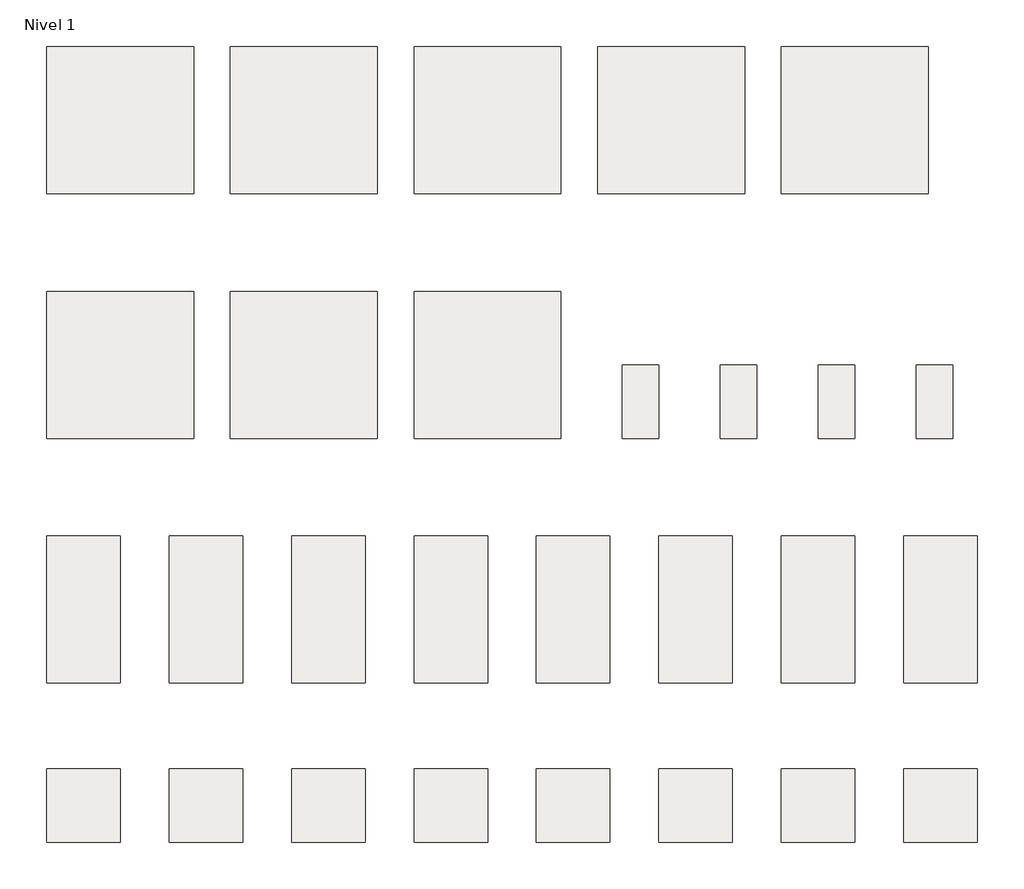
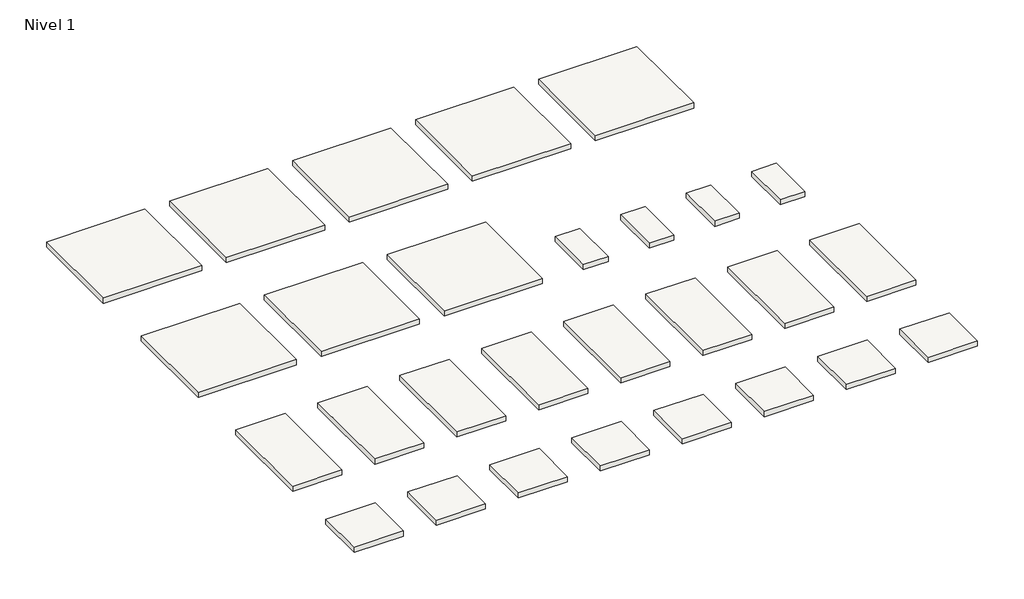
# One storey: 28 slabs.
"""IFC4 building model written with IfcOpenShell, lengths in millimetres."""

from ifc_helpers import new_model, si_unit, frame, origin, place, context, project, spatial, polyline, outline, extrude, element, save

model = new_model("IFC4")

# Units and contexts
model_context = context("Model", 3, world=origin())
ifc_project = project(units=[si_unit("LENGTHUNIT", "METRE", prefix="MILLI")], contexts=[model_context])

# Site, building, storey
site = spatial("IfcSite", under=ifc_project)
building = spatial("IfcBuilding", under=site)
storey = spatial("IfcBuildingStorey", under=building, Name="Nivel 1", Elevation=0.0)

# Slabs
placement = place(None, origin())
element("IfcSlab", 1, ObjectType="Moma Antracita 120X120", at=placement, inside=storey, context=model_context, shape_type="SweptSolid", body=[
    extrude(outline(polyline([(0.0, 1200.0), (1200.0, 1200.0), (1200.0, 0.0), (0.0, 0.0), (0.0, 1200.0)])), frame((0.0, 0.0, -65.0), z_axis=(0.0, 0.0, 1.0), x_axis=(1.0, 0.0, 0.0)), (0.0, 0.0, 1.0), 65.0),
])
element("IfcSlab", 2, ObjectType="Moma Arena 120X120", at=placement, inside=storey, context=model_context, shape_type="SweptSolid", body=[
    extrude(outline(polyline([(1500.0, 1200.0), (2700.0, 1200.0), (2700.0, 0.0), (1500.0, 0.0), (1500.0, 1200.0)])), frame((0.0, 0.0, -65.0), z_axis=(0.0, 0.0, 1.0), x_axis=(1.0, 0.0, 0.0)), (0.0, 0.0, 1.0), 65.0),
])
element("IfcSlab", 3, ObjectType="Moma Gris 120X120", at=placement, inside=storey, context=model_context, shape_type="SweptSolid", body=[
    extrude(outline(polyline([(3000.0, 1200.0), (4200.0, 1200.0), (4200.0, 0.0), (3000.0, 0.0), (3000.0, 1200.0)])), frame((0.0, 0.0, -65.0), z_axis=(0.0, 0.0, 1.0), x_axis=(1.0, 0.0, 0.0)), (0.0, 0.0, 1.0), 65.0),
])
element("IfcSlab", 4, ObjectType="Moma Siena 120X120", at=placement, inside=storey, context=model_context, shape_type="SweptSolid", body=[
    extrude(outline(polyline([(4500.0, 1200.0), (5700.0, 1200.0), (5700.0, 0.0), (4500.0, 0.0), (4500.0, 1200.0)])), frame((0.0, 0.0, -65.0), z_axis=(0.0, 0.0, 1.0), x_axis=(1.0, 0.0, 0.0)), (0.0, 0.0, 1.0), 65.0),
])
element("IfcSlab", 5, ObjectType="Moma Antislip Antracita 120X120", at=placement, inside=storey, context=model_context, shape_type="SweptSolid", body=[
    extrude(outline(polyline([(6000.0, 1200.0), (7200.0, 1200.0), (7200.0, 0.0), (6000.0, 0.0), (6000.0, 1200.0)])), frame((0.0, 0.0, -65.0), z_axis=(0.0, 0.0, 1.0), x_axis=(1.0, 0.0, 0.0)), (0.0, 0.0, 1.0), 65.0),
])
element("IfcSlab", 6, ObjectType="Moma Antislip Arena 120X120", at=placement, inside=storey, context=model_context, shape_type="SweptSolid", body=[
    extrude(outline(polyline([(0.0, -800.0), (1200.0, -800.0), (1200.0, -2000.0), (0.0, -2000.0), (0.0, -800.0)])), frame((0.0, 0.0, -65.0), z_axis=(0.0, 0.0, 1.0), x_axis=(1.0, 0.0, 0.0)), (0.0, 0.0, 1.0), 65.0),
])
element("IfcSlab", 7, ObjectType="Moma Antislip Gris 120X120", at=placement, inside=storey, context=model_context, shape_type="SweptSolid", body=[
    extrude(outline(polyline([(1500.0, -800.0), (2700.0, -800.0), (2700.0, -2000.0), (1500.0, -2000.0), (1500.0, -800.0)])), frame((0.0, 0.0, -65.0), z_axis=(0.0, 0.0, 1.0), x_axis=(1.0, 0.0, 0.0)), (0.0, 0.0, 1.0), 65.0),
])
element("IfcSlab", 8, ObjectType="Moma Antislip Siena 120X120", at=placement, inside=storey, context=model_context, shape_type="SweptSolid", body=[
    extrude(outline(polyline([(3000.0, -800.0), (4200.0, -800.0), (4200.0, -2000.0), (3000.0, -2000.0), (3000.0, -800.0)])), frame((0.0, 0.0, -65.0), z_axis=(0.0, 0.0, 1.0), x_axis=(1.0, 0.0, 0.0)), (0.0, 0.0, 1.0), 65.0),
])
element("IfcSlab", 9, ObjectType="Moma Antracita 60X120", at=placement, inside=storey, context=model_context, shape_type="SweptSolid", body=[
    extrude(outline(polyline([(0.0, -2800.0), (600.0, -2800.0), (600.0, -4000.0), (0.0, -4000.0), (0.0, -2800.0)])), frame((0.0, 0.0, -65.0), z_axis=(0.0, 0.0, 1.0), x_axis=(1.0, 0.0, 0.0)), (0.0, 0.0, 1.0), 65.0),
])
element("IfcSlab", 10, ObjectType="Moma Arena 60X120", at=placement, inside=storey, context=model_context, shape_type="SweptSolid", body=[
    extrude(outline(polyline([(1000.0, -2800.0), (1600.0, -2800.0), (1600.0, -4000.0), (1000.0, -4000.0), (1000.0, -2800.0)])), frame((0.0, 0.0, -65.0), z_axis=(0.0, 0.0, 1.0), x_axis=(1.0, 0.0, 0.0)), (0.0, 0.0, 1.0), 65.0),
])
element("IfcSlab", 11, ObjectType="Moma Gris 60X120", at=placement, inside=storey, context=model_context, shape_type="SweptSolid", body=[
    extrude(outline(polyline([(2000.0, -2800.0), (2600.0, -2800.0), (2600.0, -4000.0), (2000.0, -4000.0), (2000.0, -2800.0)])), frame((0.0, 0.0, -65.0), z_axis=(0.0, 0.0, 1.0), x_axis=(1.0, 0.0, 0.0)), (0.0, 0.0, 1.0), 65.0),
])
element("IfcSlab", 12, ObjectType="Moma Siena 60X120", at=placement, inside=storey, context=model_context, shape_type="SweptSolid", body=[
    extrude(outline(polyline([(3000.0, -2800.0), (3600.0, -2800.0), (3600.0, -4000.0), (3000.0, -4000.0), (3000.0, -2800.0)])), frame((0.0, 0.0, -65.0), z_axis=(0.0, 0.0, 1.0), x_axis=(1.0, 0.0, 0.0)), (0.0, 0.0, 1.0), 65.0),
])
element("IfcSlab", 13, ObjectType="Moma Antislip Antracita 60X120", at=placement, inside=storey, context=model_context, shape_type="SweptSolid", body=[
    extrude(outline(polyline([(4000.0, -2800.0), (4600.0, -2800.0), (4600.0, -4000.0), (4000.0, -4000.0), (4000.0, -2800.0)])), frame((0.0, 0.0, -65.0), z_axis=(0.0, 0.0, 1.0), x_axis=(1.0, 0.0, 0.0)), (0.0, 0.0, 1.0), 65.0),
])
element("IfcSlab", 14, ObjectType="Moma Antislip Arena 60X120", at=placement, inside=storey, context=model_context, shape_type="SweptSolid", body=[
    extrude(outline(polyline([(5000.0, -2800.0), (5600.0, -2800.0), (5600.0, -4000.0), (5000.0, -4000.0), (5000.0, -2800.0)])), frame((0.0, 0.0, -65.0), z_axis=(0.0, 0.0, 1.0), x_axis=(1.0, 0.0, 0.0)), (0.0, 0.0, 1.0), 65.0),
])
element("IfcSlab", 15, ObjectType="Moma Antislip Gris 60X120", at=placement, inside=storey, context=model_context, shape_type="SweptSolid", body=[
    extrude(outline(polyline([(6000.0, -2800.0), (6600.0, -2800.0), (6600.0, -4000.0), (6000.0, -4000.0), (6000.0, -2800.0)])), frame((0.0, 0.0, -65.0), z_axis=(0.0, 0.0, 1.0), x_axis=(1.0, 0.0, 0.0)), (0.0, 0.0, 1.0), 65.0),
])
element("IfcSlab", 16, ObjectType="Moma Antislip Siena 60X120", at=placement, inside=storey, context=model_context, shape_type="SweptSolid", body=[
    extrude(outline(polyline([(7000.0, -2800.0), (7600.0, -2800.0), (7600.0, -4000.0), (7000.0, -4000.0), (7000.0, -2800.0)])), frame((0.0, 0.0, -65.0), z_axis=(0.0, 0.0, 1.0), x_axis=(1.0, 0.0, 0.0)), (0.0, 0.0, 1.0), 65.0),
])
element("IfcSlab", 17, ObjectType="Moma Antracita 60X60", at=placement, inside=storey, context=model_context, shape_type="SweptSolid", body=[
    extrude(outline(polyline([(0.0, -4700.0), (600.0, -4700.0), (600.0, -5300.0), (0.0, -5300.0), (0.0, -4700.0)])), frame((0.0, 0.0, -65.0), z_axis=(0.0, 0.0, 1.0), x_axis=(1.0, 0.0, 0.0)), (0.0, 0.0, 1.0), 65.0),
])
element("IfcSlab", 18, ObjectType="Moma Arena 60X60", at=placement, inside=storey, context=model_context, shape_type="SweptSolid", body=[
    extrude(outline(polyline([(1000.0, -4700.0), (1600.0, -4700.0), (1600.0, -5300.0), (1000.0, -5300.0), (1000.0, -4700.0)])), frame((0.0, 0.0, -65.0), z_axis=(0.0, 0.0, 1.0), x_axis=(1.0, 0.0, 0.0)), (0.0, 0.0, 1.0), 65.0),
])
element("IfcSlab", 19, ObjectType="Moma Gris 60X60", at=placement, inside=storey, context=model_context, shape_type="SweptSolid", body=[
    extrude(outline(polyline([(2000.0, -4700.0), (2600.0, -4700.0), (2600.0, -5300.0), (2000.0, -5300.0), (2000.0, -4700.0)])), frame((0.0, 0.0, -65.0), z_axis=(0.0, 0.0, 1.0), x_axis=(1.0, 0.0, 0.0)), (0.0, 0.0, 1.0), 65.0),
])
element("IfcSlab", 20, ObjectType="Moma Siena 60X60", at=placement, inside=storey, context=model_context, shape_type="SweptSolid", body=[
    extrude(outline(polyline([(3000.0, -4700.0), (3600.0, -4700.0), (3600.0, -5300.0), (3000.0, -5300.0), (3000.0, -4700.0)])), frame((0.0, 0.0, -65.0), z_axis=(0.0, 0.0, 1.0), x_axis=(1.0, 0.0, 0.0)), (0.0, 0.0, 1.0), 65.0),
])
element("IfcSlab", 21, ObjectType="Moma Antislip Antracita 60X60", at=placement, inside=storey, context=model_context, shape_type="SweptSolid", body=[
    extrude(outline(polyline([(4000.0, -4700.0), (4600.0, -4700.0), (4600.0, -5300.0), (4000.0, -5300.0), (4000.0, -4700.0)])), frame((0.0, 0.0, -65.0), z_axis=(0.0, 0.0, 1.0), x_axis=(1.0, 0.0, 0.0)), (0.0, 0.0, 1.0), 65.0),
])
element("IfcSlab", 22, ObjectType="Moma Antislip Arena 60X60", at=placement, inside=storey, context=model_context, shape_type="SweptSolid", body=[
    extrude(outline(polyline([(5000.0, -4700.0), (5600.0, -4700.0), (5600.0, -5300.0), (5000.0, -5300.0), (5000.0, -4700.0)])), frame((0.0, 0.0, -65.0), z_axis=(0.0, 0.0, 1.0), x_axis=(1.0, 0.0, 0.0)), (0.0, 0.0, 1.0), 65.0),
])
element("IfcSlab", 23, ObjectType="Moma Antislip Gris 60X60", at=placement, inside=storey, context=model_context, shape_type="SweptSolid", body=[
    extrude(outline(polyline([(6000.0, -4700.0), (6600.0, -4700.0), (6600.0, -5300.0), (6000.0, -5300.0), (6000.0, -4700.0)])), frame((0.0, 0.0, -65.0), z_axis=(0.0, 0.0, 1.0), x_axis=(1.0, 0.0, 0.0)), (0.0, 0.0, 1.0), 65.0),
])
element("IfcSlab", 24, ObjectType="Moma Antislip Siena 60X60", at=placement, inside=storey, context=model_context, shape_type="SweptSolid", body=[
    extrude(outline(polyline([(7000.0, -4700.0), (7600.0, -4700.0), (7600.0, -5300.0), (7000.0, -5300.0), (7000.0, -4700.0)])), frame((0.0, 0.0, -65.0), z_axis=(0.0, 0.0, 1.0), x_axis=(1.0, 0.0, 0.0)), (0.0, 0.0, 1.0), 65.0),
])
element("IfcSlab", 25, ObjectType="Moma Antracita 30X60", at=placement, inside=storey, context=model_context, shape_type="SweptSolid", body=[
    extrude(outline(polyline([(4700.0, -1400.0), (5000.0, -1400.0), (5000.0, -2000.0), (4700.0, -2000.0), (4700.0, -1400.0)])), frame((0.0, 0.0, -65.0), z_axis=(0.0, 0.0, 1.0), x_axis=(1.0, 0.0, 0.0)), (0.0, 0.0, 1.0), 65.0),
])
element("IfcSlab", 26, ObjectType="Moma Arena 30X60", at=placement, inside=storey, context=model_context, shape_type="SweptSolid", body=[
    extrude(outline(polyline([(5500.0, -1400.0), (5800.0, -1400.0), (5800.0, -2000.0), (5500.0, -2000.0), (5500.0, -1400.0)])), frame((0.0, 0.0, -65.0), z_axis=(0.0, 0.0, 1.0), x_axis=(1.0, 0.0, 0.0)), (0.0, 0.0, 1.0), 65.0),
])
element("IfcSlab", 27, ObjectType="Moma Gris 30X60", at=placement, inside=storey, context=model_context, shape_type="SweptSolid", body=[
    extrude(outline(polyline([(6300.0, -1400.0), (6600.0, -1400.0), (6600.0, -2000.0), (6300.0, -2000.0), (6300.0, -1400.0)])), frame((0.0, 0.0, -65.0), z_axis=(0.0, 0.0, 1.0), x_axis=(1.0, 0.0, 0.0)), (0.0, 0.0, 1.0), 65.0),
])
element("IfcSlab", 28, ObjectType="Moma Siena 30X60", at=placement, inside=storey, context=model_context, shape_type="SweptSolid", body=[
    extrude(outline(polyline([(7100.0, -1400.0), (7400.0, -1400.0), (7400.0, -2000.0), (7100.0, -2000.0), (7100.0, -1400.0)])), frame((0.0, 0.0, -65.0), z_axis=(0.0, 0.0, 1.0), x_axis=(1.0, 0.0, 0.0)), (0.0, 0.0, 1.0), 65.0),
])

save(model, "model.ifc")
